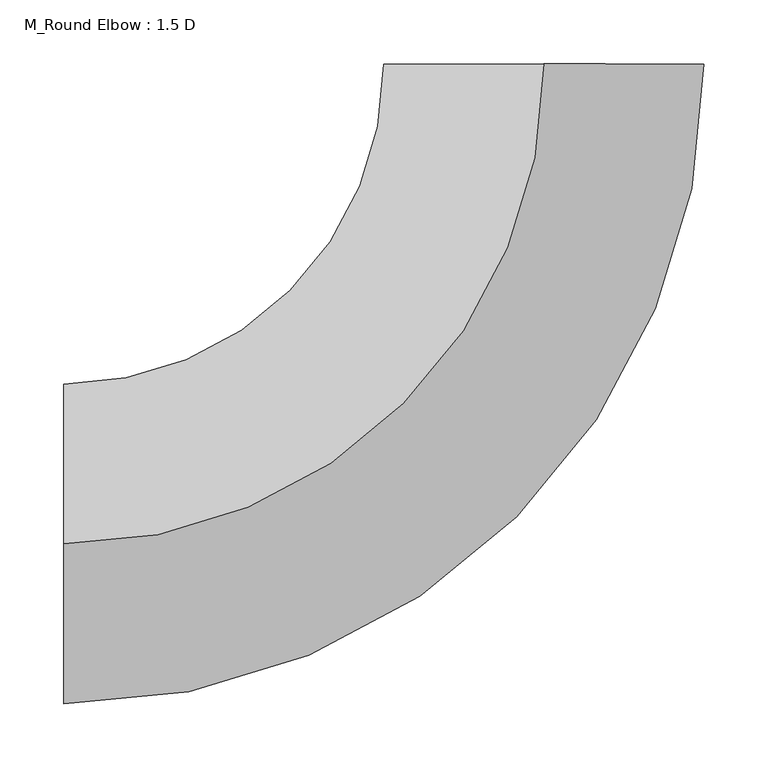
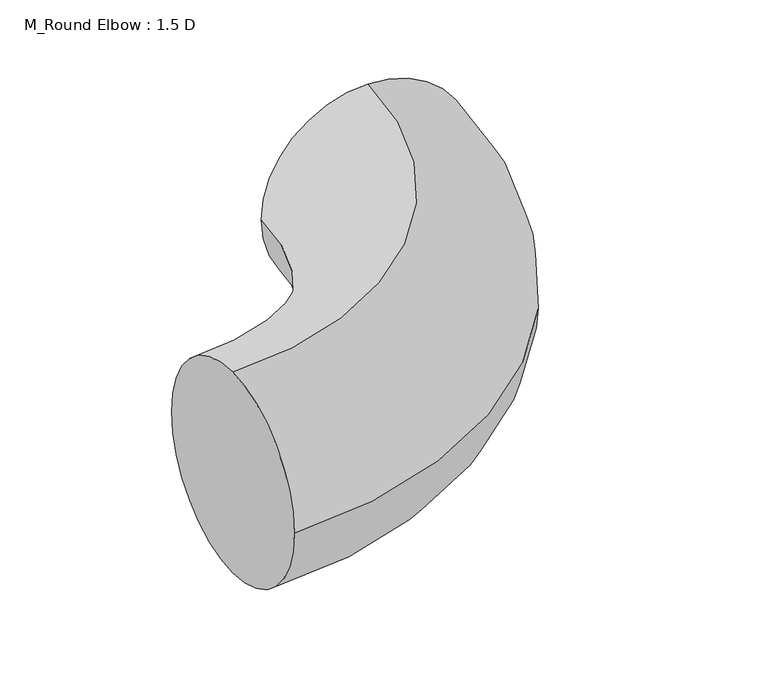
"""IFC4 building model written with IfcOpenShell, lengths in millimetres: duct fitting geometry, M_Round Elbow : 1.5 D."""

from ifc_helpers import new_model, si_unit, point, frame, origin, place, context, project, spatial, circle_curve, ellipse_curve, trimmed, source, transform, mapped, element, save
from ifc_brep_helpers import plane_surface, revolved_surface, advanced_brep


def m_round_elbow_1_5_d_8f9a9358(model_context):
    return source(origin(), model_context, "Body", "AdvancedBrep", [
        advanced_brep(
        [(-375.0133931, 0.0, 125.0), (-375.0133931, 125.0, 0.0), (-375.0133931, 0.0, -125.0), (-375.0133931, -125.0, 0.0), (-0.0133933, 375.0133929, 125.0), (124.9866066, 375.0178571, 0.0), (-0.0133933, 375.0133929, -125.0), (-125.0133933, 375.0089286, 0.0)],
        [
            (0, 1, circle_curve(frame((-375.0133931, 0.0, 0.0), z_axis=(-1.0, 0.0, 0.0), x_axis=(0.0, 1.0, 0.0)), 125.0)),
            (1, 2, circle_curve(frame((-375.0133931, 0.0, 0.0), z_axis=(-1.0, 0.0, 0.0), x_axis=(0.0, 1.0, 0.0)), 125.0)),
            (2, 3, circle_curve(frame((-375.0133931, 0.0, 0.0), z_axis=(-1.0, 0.0, 0.0), x_axis=(0.0, 1.0, 0.0)), 125.0)),
            (3, 0, circle_curve(frame((-375.0133931, 0.0, 0.0), z_axis=(-1.0, 0.0, 0.0), x_axis=(0.0, 1.0, 0.0)), 125.0)),
            (4, 5, circle_curve(frame((-0.0133933, 375.0133929, 0.0), z_axis=(-3.571428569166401e-05, 0.9999999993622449, 0.0), x_axis=(-0.9999999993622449, -3.571428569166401e-05, 0.0)), 125.0)),
            (5, 6, circle_curve(frame((-0.0133933, 375.0133929, 0.0), z_axis=(-3.571428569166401e-05, 0.9999999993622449, 0.0), x_axis=(-0.9999999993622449, -3.571428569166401e-05, 0.0)), 125.0)),
            (6, 7, circle_curve(frame((-0.0133933, 375.0133929, 0.0), z_axis=(-3.571428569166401e-05, 0.9999999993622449, 0.0), x_axis=(-0.9999999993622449, -3.571428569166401e-05, 0.0)), 125.0)),
            (7, 4, circle_curve(frame((-0.0133933, 375.0133929, 0.0), z_axis=(-3.571428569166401e-05, 0.9999999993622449, 0.0), x_axis=(-0.9999999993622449, -3.571428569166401e-05, 0.0)), 125.0)),
            (7, 1, circle_curve(frame((-375.0133931, 375.0, 0.0), z_axis=(0.0, 0.0, -1.0), x_axis=(0.0, -1.0, 0.0)), 250.0)),
            (0, 4, circle_curve(frame((-375.0133931, 375.0, 125.0), z_axis=(0.0, 0.0, 1.0), x_axis=(0.0, -1.0, 0.0)), 375.0)),
            (6, 2, circle_curve(frame((-375.0133931, 375.0, -125.0), z_axis=(0.0, 0.0, -1.0), x_axis=(0.0, -1.0, 0.0)), 375.0)),
            (5, 3, circle_curve(frame((-375.0133931, 375.0, 0.0), z_axis=(0.0, 0.0, -1.0), x_axis=(0.0, -1.0, 0.0)), 500.0)),
        ],
        [
            plane_surface(frame((-375.0133931, 0.0, 0.0), z_axis=(-1.0, 0.0, 0.0), x_axis=(0.0, 0.0, 1.0))),
            plane_surface(frame((-0.0133933, 375.0133929, 0.0), z_axis=(-3.5714285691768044e-05, 0.999999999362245, 0.0), x_axis=(0.0, 0.0, 1.0))),
            revolved_surface(trimmed(ellipse_curve(frame((-375.0133931, 0.0, 0.0), z_axis=(-1.0, 0.0, 0.0), x_axis=(0.0, 1.0, 0.0)), 125.0, 125.0), [point((-375.0133931, 0.0, 125.0))], [point((-375.0133931, 125.0, 0.0))], True, "CARTESIAN"), (-375.0133931, 375.0, 0.0), (0.0, 0.0, 1.0)),
            revolved_surface(trimmed(ellipse_curve(frame((-375.0133931, 0.0, 0.0), z_axis=(-1.0, 0.0, 0.0), x_axis=(0.0, 1.0, 0.0)), 125.0, 125.0), [point((-375.0133931, 125.0, 0.0))], [point((-375.0133931, 0.0, -125.0))], True, "CARTESIAN"), (-375.0133931, 375.0, 0.0), (0.0, 0.0, 1.0)),
            revolved_surface(trimmed(ellipse_curve(frame((-375.0133931, 0.0, 0.0), z_axis=(-1.0, 0.0, 0.0), x_axis=(0.0, 1.0, 0.0)), 125.0, 125.0), [point((-375.0133931, 0.0, -125.0))], [point((-375.0133931, -125.0, 0.0))], True, "CARTESIAN"), (-375.0133931, 375.0, 0.0), (0.0, 0.0, 1.0)),
            revolved_surface(trimmed(ellipse_curve(frame((-375.0133931, 0.0, 0.0), z_axis=(-1.0, 0.0, 0.0), x_axis=(0.0, 1.0, 0.0)), 125.0, 125.0), [point((-375.0133931, -125.0, 0.0))], [point((-375.0133931, 0.0, 125.0))], True, "CARTESIAN"), (-375.0133931, 375.0, 0.0), (0.0, 0.0, 1.0)),
        ],
        [
            (0, [[1, 2, 3, 4]]),
            (1, [[5, 6, 7, 8]]),
            (2, [[9, -1, 10, -8]]),
            (3, [[11, -2, -9, -7]]),
            (4, [[12, -3, -11, -6]]),
            (5, [[-10, -4, -12, -5]]),
        ],
    ),
        advanced_brep(
        [(-375.0133931, 0.0, 125.0), (-375.0133931, 125.0, 0.0), (-375.0133931, 0.0, -125.0), (-375.0133931, -125.0, 0.0), (-0.0133933, 375.0133929, 125.0), (124.9866066, 375.0178571, 0.0), (-0.0133933, 375.0133929, -125.0), (-125.0133933, 375.0089286, 0.0)],
        [
            (0, 1, circle_curve(frame((-375.0133931, 0.0, 0.0), z_axis=(-1.0, 0.0, 0.0), x_axis=(0.0, 1.0, 0.0)), 125.0)),
            (1, 2, circle_curve(frame((-375.0133931, 0.0, 0.0), z_axis=(-1.0, 0.0, 0.0), x_axis=(0.0, 1.0, 0.0)), 125.0)),
            (2, 3, circle_curve(frame((-375.0133931, 0.0, 0.0), z_axis=(-1.0, 0.0, 0.0), x_axis=(0.0, 1.0, 0.0)), 125.0)),
            (3, 0, circle_curve(frame((-375.0133931, 0.0, 0.0), z_axis=(-1.0, 0.0, 0.0), x_axis=(0.0, 1.0, 0.0)), 125.0)),
            (4, 5, circle_curve(frame((-0.0133933, 375.0133929, 0.0), z_axis=(-3.571428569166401e-05, 0.9999999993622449, 0.0), x_axis=(-0.9999999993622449, -3.571428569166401e-05, 0.0)), 125.0)),
            (5, 6, circle_curve(frame((-0.0133933, 375.0133929, 0.0), z_axis=(-3.571428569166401e-05, 0.9999999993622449, 0.0), x_axis=(-0.9999999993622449, -3.571428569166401e-05, 0.0)), 125.0)),
            (6, 7, circle_curve(frame((-0.0133933, 375.0133929, 0.0), z_axis=(-3.571428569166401e-05, 0.9999999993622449, 0.0), x_axis=(-0.9999999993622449, -3.571428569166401e-05, 0.0)), 125.0)),
            (7, 4, circle_curve(frame((-0.0133933, 375.0133929, 0.0), z_axis=(-3.571428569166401e-05, 0.9999999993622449, 0.0), x_axis=(-0.9999999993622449, -3.571428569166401e-05, 0.0)), 125.0)),
            (7, 1, circle_curve(frame((-375.0133931, 375.0, 0.0), z_axis=(0.0, 0.0, -1.0), x_axis=(0.0, -1.0, 0.0)), 250.0)),
            (0, 4, circle_curve(frame((-375.0133931, 375.0, 125.0), z_axis=(0.0, 0.0, 1.0), x_axis=(0.0, -1.0, 0.0)), 375.0)),
            (6, 2, circle_curve(frame((-375.0133931, 375.0, -125.0), z_axis=(0.0, 0.0, -1.0), x_axis=(0.0, -1.0, 0.0)), 375.0)),
            (5, 3, circle_curve(frame((-375.0133931, 375.0, 0.0), z_axis=(0.0, 0.0, -1.0), x_axis=(0.0, -1.0, 0.0)), 500.0)),
        ],
        [
            plane_surface(frame((-375.0133931, 0.0, 0.0), z_axis=(-1.0, 0.0, 0.0), x_axis=(0.0, 0.0, 1.0))),
            plane_surface(frame((-0.0133933, 375.0133929, 0.0), z_axis=(-3.5714285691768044e-05, 0.999999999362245, 0.0), x_axis=(0.0, 0.0, 1.0))),
            revolved_surface(trimmed(ellipse_curve(frame((-375.0133931, 0.0, 0.0), z_axis=(-1.0, 0.0, 0.0), x_axis=(0.0, 1.0, 0.0)), 125.0, 125.0), [point((-375.0133931, 0.0, 125.0))], [point((-375.0133931, 125.0, 0.0))], True, "CARTESIAN"), (-375.0133931, 375.0, 0.0), (0.0, 0.0, 1.0)),
            revolved_surface(trimmed(ellipse_curve(frame((-375.0133931, 0.0, 0.0), z_axis=(-1.0, 0.0, 0.0), x_axis=(0.0, 1.0, 0.0)), 125.0, 125.0), [point((-375.0133931, 125.0, 0.0))], [point((-375.0133931, 0.0, -125.0))], True, "CARTESIAN"), (-375.0133931, 375.0, 0.0), (0.0, 0.0, 1.0)),
            revolved_surface(trimmed(ellipse_curve(frame((-375.0133931, 0.0, 0.0), z_axis=(-1.0, 0.0, 0.0), x_axis=(0.0, 1.0, 0.0)), 125.0, 125.0), [point((-375.0133931, 0.0, -125.0))], [point((-375.0133931, -125.0, 0.0))], True, "CARTESIAN"), (-375.0133931, 375.0, 0.0), (0.0, 0.0, 1.0)),
            revolved_surface(trimmed(ellipse_curve(frame((-375.0133931, 0.0, 0.0), z_axis=(-1.0, 0.0, 0.0), x_axis=(0.0, 1.0, 0.0)), 125.0, 125.0), [point((-375.0133931, -125.0, 0.0))], [point((-375.0133931, 0.0, 125.0))], True, "CARTESIAN"), (-375.0133931, 375.0, 0.0), (0.0, 0.0, 1.0)),
        ],
        [
            (0, [[1, 2, 3, 4]]),
            (1, [[5, 6, 7, 8]]),
            (2, [[9, -1, 10, -8]]),
            (3, [[11, -2, -9, -7]]),
            (4, [[12, -3, -11, -6]]),
            (5, [[-10, -4, -12, -5]]),
        ],
    ),
        advanced_brep(
        [(-375.0133931, 0.0, 125.0), (-375.0133931, 125.0, 0.0), (-375.0133931, 0.0, -125.0), (-375.0133931, -125.0, 0.0), (-0.0133933, 375.0133929, 125.0), (124.9866066, 375.0178571, 0.0), (-0.0133933, 375.0133929, -125.0), (-125.0133933, 375.0089286, 0.0)],
        [
            (0, 1, circle_curve(frame((-375.0133931, 0.0, 0.0), z_axis=(-1.0, 0.0, 0.0), x_axis=(0.0, 1.0, 0.0)), 125.0)),
            (1, 2, circle_curve(frame((-375.0133931, 0.0, 0.0), z_axis=(-1.0, 0.0, 0.0), x_axis=(0.0, 1.0, 0.0)), 125.0)),
            (2, 3, circle_curve(frame((-375.0133931, 0.0, 0.0), z_axis=(-1.0, 0.0, 0.0), x_axis=(0.0, 1.0, 0.0)), 125.0)),
            (3, 0, circle_curve(frame((-375.0133931, 0.0, 0.0), z_axis=(-1.0, 0.0, 0.0), x_axis=(0.0, 1.0, 0.0)), 125.0)),
            (4, 5, circle_curve(frame((-0.0133933, 375.0133929, 0.0), z_axis=(-3.571428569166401e-05, 0.9999999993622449, 0.0), x_axis=(-0.9999999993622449, -3.571428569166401e-05, 0.0)), 125.0)),
            (5, 6, circle_curve(frame((-0.0133933, 375.0133929, 0.0), z_axis=(-3.571428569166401e-05, 0.9999999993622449, 0.0), x_axis=(-0.9999999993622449, -3.571428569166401e-05, 0.0)), 125.0)),
            (6, 7, circle_curve(frame((-0.0133933, 375.0133929, 0.0), z_axis=(-3.571428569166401e-05, 0.9999999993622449, 0.0), x_axis=(-0.9999999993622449, -3.571428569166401e-05, 0.0)), 125.0)),
            (7, 4, circle_curve(frame((-0.0133933, 375.0133929, 0.0), z_axis=(-3.571428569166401e-05, 0.9999999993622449, 0.0), x_axis=(-0.9999999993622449, -3.571428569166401e-05, 0.0)), 125.0)),
            (7, 1, circle_curve(frame((-375.0133931, 375.0, 0.0), z_axis=(0.0, 0.0, -1.0), x_axis=(0.0, -1.0, 0.0)), 250.0)),
            (0, 4, circle_curve(frame((-375.0133931, 375.0, 125.0), z_axis=(0.0, 0.0, 1.0), x_axis=(0.0, -1.0, 0.0)), 375.0)),
            (6, 2, circle_curve(frame((-375.0133931, 375.0, -125.0), z_axis=(0.0, 0.0, -1.0), x_axis=(0.0, -1.0, 0.0)), 375.0)),
            (5, 3, circle_curve(frame((-375.0133931, 375.0, 0.0), z_axis=(0.0, 0.0, -1.0), x_axis=(0.0, -1.0, 0.0)), 500.0)),
        ],
        [
            plane_surface(frame((-375.0133931, 0.0, 0.0), z_axis=(-1.0, 0.0, 0.0), x_axis=(0.0, 0.0, 1.0))),
            plane_surface(frame((-0.0133933, 375.0133929, 0.0), z_axis=(-3.5714285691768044e-05, 0.999999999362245, 0.0), x_axis=(0.0, 0.0, 1.0))),
            revolved_surface(trimmed(ellipse_curve(frame((-375.0133931, 0.0, 0.0), z_axis=(-1.0, 0.0, 0.0), x_axis=(0.0, 1.0, 0.0)), 125.0, 125.0), [point((-375.0133931, 0.0, 125.0))], [point((-375.0133931, 125.0, 0.0))], True, "CARTESIAN"), (-375.0133931, 375.0, 0.0), (0.0, 0.0, 1.0)),
            revolved_surface(trimmed(ellipse_curve(frame((-375.0133931, 0.0, 0.0), z_axis=(-1.0, 0.0, 0.0), x_axis=(0.0, 1.0, 0.0)), 125.0, 125.0), [point((-375.0133931, 125.0, 0.0))], [point((-375.0133931, 0.0, -125.0))], True, "CARTESIAN"), (-375.0133931, 375.0, 0.0), (0.0, 0.0, 1.0)),
            revolved_surface(trimmed(ellipse_curve(frame((-375.0133931, 0.0, 0.0), z_axis=(-1.0, 0.0, 0.0), x_axis=(0.0, 1.0, 0.0)), 125.0, 125.0), [point((-375.0133931, 0.0, -125.0))], [point((-375.0133931, -125.0, 0.0))], True, "CARTESIAN"), (-375.0133931, 375.0, 0.0), (0.0, 0.0, 1.0)),
            revolved_surface(trimmed(ellipse_curve(frame((-375.0133931, 0.0, 0.0), z_axis=(-1.0, 0.0, 0.0), x_axis=(0.0, 1.0, 0.0)), 125.0, 125.0), [point((-375.0133931, -125.0, 0.0))], [point((-375.0133931, 0.0, 125.0))], True, "CARTESIAN"), (-375.0133931, 375.0, 0.0), (0.0, 0.0, 1.0)),
        ],
        [
            (0, [[1, 2, 3, 4]]),
            (1, [[5, 6, 7, 8]]),
            (2, [[9, -1, 10, -8]]),
            (3, [[11, -2, -9, -7]]),
            (4, [[12, -3, -11, -6]]),
            (5, [[-10, -4, -12, -5]]),
        ],
    ),
    ])


if __name__ == "__main__":
    model = new_model("IFC4")
    model_context = context("Model", 3, world=origin())
    ifc_project = project(units=[si_unit("LENGTHUNIT", "METRE", prefix="MILLI")], contexts=[model_context])
    site = spatial("IfcSite", under=ifc_project)
    building = spatial("IfcBuilding", under=site)
    placement = place(None, origin())
    m_round_elbow_1_5_d_shape = m_round_elbow_1_5_d_8f9a9358(model_context)
    element("IfcDuctFitting", 1, ObjectType="M_Round Elbow : 1.5 D", at=placement, inside=building, context=model_context, shape_type="MappedRepresentation", body=[
        mapped(m_round_elbow_1_5_d_shape, transform((0.0, 0.0, 0.0), x_axis=(1.0, 0.0, 0.0), y_axis=(0.0, 1.0, 0.0), z_axis=(0.0, 0.0, 1.0))),
    ])
    save(model, "model.ifc")
